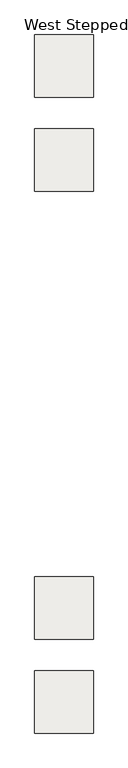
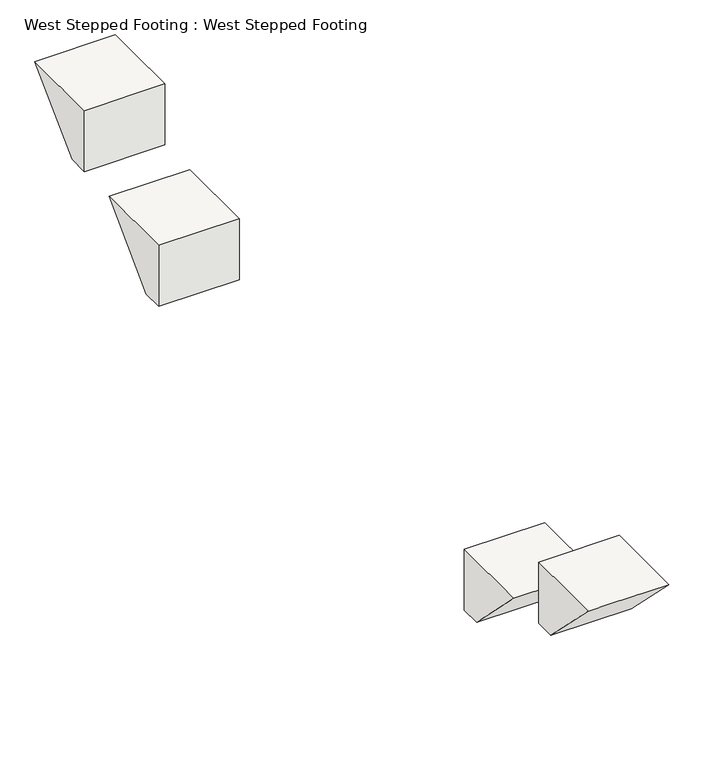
"""IFC4 building model written with IfcOpenShell, lengths in millimetres: slab geometry, West Stepped Footing : West Stepped Footing."""

import ifcopenshell
import ifcopenshell.guid

model = None  # the IFC model being written
_history = None  # IfcOwnerHistory: only IFC2X3 demands one
_inside = {}  # id of a spatial element -> (the spatial element, [elements in it])
_under = {}  # id of a project, library or spatial element -> (it, [spatial elements below it])
_declared = {}  # id of a project -> (the project, [libraries it declares])
_typed = {}  # id of a type object -> (the type object, [elements of that type])
_made_of = {}  # id of a material, layer set ... -> (it, [elements and type objects made of it])


def new_model(schema):
    """Start an empty IFC model of exactly this schema.

    Asked for "IFC4X3", IfcOpenShell would pick the latest addendum, in which some entities
    have other attributes; the version numbers below select the first issue.
    IFC2X3 requires an IfcOwnerHistory on every rooted entity: one is made here for all.
    """
    global model, _history
    if schema == "IFC4X3":
        model = ifcopenshell.file(schema_version=(4, 3, 0, 0))
    else:
        model = ifcopenshell.file(schema=schema)
    _inside.clear()
    _under.clear()
    _declared.clear()
    _typed.clear()
    _made_of.clear()
    _history = None
    if model.schema == "IFC2X3":
        org = make("IfcOrganization", Name="unknown")
        user = make(
            "IfcPersonAndOrganization",
            ThePerson=make("IfcPerson", FamilyName="unknown"),
            TheOrganization=org,
        )
        app = make(
            "IfcApplication",
            ApplicationDeveloper=org,
            Version="unknown",
            ApplicationFullName="unknown",
            ApplicationIdentifier="unknown",
        )
        _history = make(
            "IfcOwnerHistory",
            OwningUser=user,
            OwningApplication=app,
            ChangeAction="ADDED",
            CreationDate=0,
        )
    return model


def make(cls, **values):
    """One entity of the class cls with the attributes given. An attribute that is None is left unset."""
    return model.create_entity(
        cls, **{name: value for name, value in values.items() if value is not None}
    )


def rooted(cls, **values):
    """An entity with a GlobalId (a new one), such as an element, a storey or a relation."""
    return make(cls, GlobalId=ifcopenshell.guid.new(), OwnerHistory=_history, **values)


def si_unit(unit_type, name, prefix=None):
    """IfcSIUnit, for example si_unit("LENGTHUNIT", "METRE", prefix="MILLI")."""
    return make("IfcSIUnit", UnitType=unit_type, Prefix=prefix, Name=name)


def assignment(units):
    """IfcUnitAssignment: the units of a project."""
    return None if units is None else make("IfcUnitAssignment", Units=units)


def point(xyz):
    """IfcCartesianPoint."""
    return None if xyz is None else make("IfcCartesianPoint", Coordinates=xyz)


def direction(xyz):
    """IfcDirection."""
    return None if xyz is None else make("IfcDirection", DirectionRatios=xyz)


def frame(location, z_axis=None, x_axis=None):
    """IfcAxis2Placement3D, a coordinate frame: its origin and axes. An axis left out is left unset."""
    return make(
        "IfcAxis2Placement3D",
        Location=point(location),
        Axis=direction(z_axis),
        RefDirection=direction(x_axis),
    )


def origin():
    """The frame at (0, 0, 0) with its axes left unset."""
    return frame((0.0, 0.0, 0.0))


def place(relative_to, where):
    """IfcLocalPlacement: puts the frame where relative to a parent placement (None: the world)."""
    return make(
        "IfcLocalPlacement", PlacementRelTo=relative_to, RelativePlacement=where
    )


def context(
    kind, dimensions, precision=None, world=None, true_north=None, identifier=None
):
    """IfcGeometricRepresentationContext, for example the 3D "Model" context."""
    return make(
        "IfcGeometricRepresentationContext",
        ContextIdentifier=identifier,
        ContextType=kind,
        CoordinateSpaceDimension=dimensions,
        Precision=precision,
        WorldCoordinateSystem=world,
        TrueNorth=true_north,
    )


def project(units=None, contexts=None):
    """IfcProject with its units and contexts."""
    return rooted(
        "IfcProject",
        Name="project",
        RepresentationContexts=contexts,
        UnitsInContext=assignment(units),
    )


def spatial(cls, under=None, at=None, **own):
    """A site, building, storey or space (cls), placed at a placement, below another one or the project."""
    s = rooted(cls, ObjectPlacement=at, **own)
    if under is not None:
        _under.setdefault(under.id(), (under, []))[1].append(s)
    return s


def faces_of(points, faces, orient=None, outer=None):
    """IfcFace entities. A face is a list of loops; a loop is a list of indices into points, from 0.

    orient and outer hold one flag for each loop. By default every Orientation is true, the
    first loop of a face is its IfcFaceOuterBound and the others are IfcFaceBound.
    """
    made = []
    for i, loops in enumerate(faces):
        bounds = []
        for j, loop in enumerate(loops):
            is_outer = j == 0 if outer is None else outer[i][j]
            bounds.append(
                make(
                    "IfcFaceOuterBound" if is_outer else "IfcFaceBound",
                    Bound=make("IfcPolyLoop", Polygon=[points[k] for k in loop]),
                    Orientation=True if orient is None else orient[i][j],
                )
            )
        made.append(make("IfcFace", Bounds=bounds))
    return made


def faceted_brep(points, faces, orient=None, outer=None, voids=None):
    """IfcFacetedBrep: a solid bounded by flat faces; with voids (closed shells), ...WithVoids."""
    shared = [point(p) for p in points]
    hull = make("IfcClosedShell", CfsFaces=faces_of(shared, faces, orient, outer))
    if voids is None:
        return make("IfcFacetedBrep", Outer=hull)
    return make(
        "IfcFacetedBrepWithVoids",
        Outer=hull,
        Voids=[
            make(cls, CfsFaces=faces_of(shared, fs, o, b)) for cls, fs, o, b in voids
        ],
    )


def shape(context_of_items, identifier, shape_type, items):
    """IfcShapeRepresentation: the items that make up one representation, for example the "Body"."""
    return make(
        "IfcShapeRepresentation",
        ContextOfItems=context_of_items,
        RepresentationIdentifier=identifier,
        RepresentationType=shape_type,
        Items=items,
    )


def source(mapping_origin, context_of_items, identifier, shape_type, items):
    """IfcRepresentationMap: a shape defined once, which mapped items show again and again."""
    return make(
        "IfcRepresentationMap",
        MappingOrigin=mapping_origin,
        MappedRepresentation=shape(context_of_items, identifier, shape_type, items),
    )


def transform(
    local_origin,
    x_axis=None,
    y_axis=None,
    z_axis=None,
    scale=None,
    scale2=None,
    scale3=None,
    uniform=True,
):
    """IfcCartesianTransformationOperator3D, or its non-uniform kind. x_axis, y_axis, z_axis: its Axis1, 2, 3."""
    if uniform:
        return make(
            "IfcCartesianTransformationOperator3D",
            Axis1=direction(x_axis),
            Axis2=direction(y_axis),
            LocalOrigin=point(local_origin),
            Scale=scale,
            Axis3=direction(z_axis),
        )
    return make(
        "IfcCartesianTransformationOperator3DnonUniform",
        Axis1=direction(x_axis),
        Axis2=direction(y_axis),
        LocalOrigin=point(local_origin),
        Scale=scale,
        Axis3=direction(z_axis),
        Scale2=scale2,
        Scale3=scale3,
    )


def mapped(mapping_source, mapping_target):
    """IfcMappedItem: shows the shape of a source again, moved by a transform."""
    return make(
        "IfcMappedItem", MappingSource=mapping_source, MappingTarget=mapping_target
    )


def made_of(thing, what):
    """Note that an element or type object is made of a material, layer set ...; save() writes the relation."""
    if what is not None:
        _made_of.setdefault(what.id(), (what, []))[1].append(thing)
    return thing


def element(
    cls,
    number,
    at=None,
    inside=None,
    cuts=None,
    type_object=None,
    material=None,
    context=None,
    identifier="Body",
    shape_type=None,
    held_by="IfcProductDefinitionShape",
    body=None,
    shapes=None,
    **own,
):
    """One element of the class cls, such as IfcWall. Its Tag is "e" and its number.

    at: its placement. inside: the storey or other place that contains it. cuts: it is an
    opening in that element (IfcRelVoidsElement). A single representation is given by context,
    identifier, shape_type and body (its items); several are given by shapes. held_by: the class
    of the entity that holds the representations. save() writes the other relations.
    """
    e = rooted(cls, Tag="e%d" % number, ObjectPlacement=at, **own)
    if body is not None:
        shapes = [shape(context, identifier, shape_type, body)]
    if shapes is not None:
        e.Representation = make(held_by, Representations=shapes)
    if inside is not None:
        _inside.setdefault(inside.id(), (inside, []))[1].append(e)
    if cuts is not None:
        rooted(
            "IfcRelVoidsElement", RelatingBuildingElement=cuts, RelatedOpeningElement=e
        )
    if type_object is not None:
        _typed.setdefault(type_object.id(), (type_object, []))[1].append(e)
    return made_of(e, material)


def aggregate(whole, parts):
    """IfcRelAggregates: a whole, such as a stair, and the parts it consists of."""
    return rooted("IfcRelAggregates", RelatingObject=whole, RelatedObjects=parts)


def save(model, path):
    """Write the relations noted so far, then the file.

    IfcRelAggregates (storeys below a building ...), IfcRelContainedInSpatialStructure (elements
    in a storey), IfcRelDefinesByType, IfcRelAssociatesMaterial and IfcRelDeclares: one each for
    every whole, place, type object, material and project.
    """
    for whole, parts in _under.values():
        aggregate(whole, parts)
    for where, things in _inside.values():
        rooted(
            "IfcRelContainedInSpatialStructure",
            RelatedElements=things,
            RelatingStructure=where,
        )
    for kind, things in _typed.values():
        rooted("IfcRelDefinesByType", RelatedObjects=things, RelatingType=kind)
    for what, things in _made_of.values():
        rooted("IfcRelAssociatesMaterial", RelatedObjects=things, RelatingMaterial=what)
    for by, libraries in _declared.values():
        rooted("IfcRelDeclares", RelatingContext=by, RelatedDefinitions=libraries)
    model.write(path)


def west_stepped_footing_west_stepped_footing_b48c4903(model_context):
    return source(origin(), model_context, "Body", "Brep", [
        faceted_brep([(-381.0, 32820.15, -5487.0), (-381.0, 32620.15, -5487.0), (-381.0, 32620.15, -5182.0), (-381.0, 32620.15, -4877.0), (-381.0, 33430.15, -4877.0), (381.0, 32820.15, -5487.0), (381.0, 32620.15, -5487.0), (381.0, 32620.15, -5182.0), (381.0, 32620.15, -4877.0), (381.0, 33150.075, -4877.0), (381.0, 33430.15, -4877.0)], [[[0, 1, 2, 3, 4]], [[1, 0, 5, 6]], [[1, 6, 7, 8, 3, 2]], [[4, 3, 8, 9, 10]], [[0, 4, 10, 5]], [[5, 10, 9, 8, 7, 6]]]),
        faceted_brep([(381.0, 24969.9586136, -5487.0), (381.0, 25169.9586136, -5487.0), (381.0, 25169.9586136, -5182.0), (381.0, 25169.9586136, -4877.0), (381.0, 25030.2449713, -4877.0), (381.0, 24659.6095453, -4877.0), (381.0, 24359.9586136, -4877.0), (-381.0, 24359.9586136, -4877.0), (-381.0, 24969.9586136, -5487.0), (-170.9872888, 24359.9586136, -4877.0), (-381.0, 25169.9586136, -4877.0), (-381.0, 24695.7955654, -4877.0), (170.3737593, 25169.9586136, -4877.0), (-66.4758159, 25169.9586136, -4877.0), (-381.0, 25169.9586136, -5487.0), (-381.0, 25169.9586136, -5182.0)], [[[0, 1, 2, 3, 4, 5, 6]], [[7, 8, 0, 6, 9]], [[10, 11, 7, 9, 6, 5, 4, 3, 12, 13]], [[10, 13, 12, 3, 2, 1, 14, 15]], [[8, 14, 1, 0]], [[8, 7, 11, 10, 15, 14]]]),
        faceted_brep([(-381.0, 31401.15, -6097.0), (-381.0, 31601.15, -6097.0), (381.0, 31601.15, -6097.0), (381.0, 31401.15, -6097.0), (381.0, 31401.15, -5792.0), (381.0, 31401.15, -5487.0), (-381.0, 31401.15, -5487.0), (-381.0, 31401.15, -5792.0), (-381.0, 32211.15, -5487.0), (381.0, 32211.15, -5487.0)], [[[0, 1, 2, 3]], [[0, 3, 4, 5, 6, 7]], [[8, 6, 5, 9]], [[1, 8, 9, 2]], [[1, 0, 7, 6, 8]], [[2, 9, 5, 4, 3]]]),
        faceted_brep([(-381.0, 25578.9586136, -5487.0), (-381.0, 26188.9586136, -6097.0), (381.0, 26188.9586136, -6097.0), (381.0, 25578.9586136, -5487.0), (-381.0, 26388.9586136, -5487.0), (381.0, 26388.9586136, -5487.0), (381.0, 26388.9586136, -5792.0), (381.0, 26388.9586136, -6097.0), (-381.0, 26388.9586136, -6097.0), (-381.0, 26388.9586136, -5792.0)], [[[0, 1, 2, 3]], [[4, 0, 3, 5]], [[4, 5, 6, 7, 8, 9]], [[1, 8, 7, 2]], [[1, 0, 4, 9, 8]], [[2, 7, 6, 5, 3]]]),
    ])


if __name__ == "__main__":
    model = new_model("IFC4")
    model_context = context("Model", 3, world=origin())
    ifc_project = project(units=[si_unit("LENGTHUNIT", "METRE", prefix="MILLI")], contexts=[model_context])
    site = spatial("IfcSite", under=ifc_project)
    building = spatial("IfcBuilding", under=site)
    placement = place(None, origin())
    west_stepped_footing_west_stepped_footing_shape = west_stepped_footing_west_stepped_footing_b48c4903(model_context)
    element("IfcSlab", 1, ObjectType="West Stepped Footing : West Stepped Footing", at=placement, inside=building, context=model_context, shape_type="MappedRepresentation", body=[
        mapped(west_stepped_footing_west_stepped_footing_shape, transform((0.0, 0.0, 0.0), x_axis=(1.0, 0.0, 0.0), y_axis=(0.0, 1.0, 0.0), z_axis=(0.0, 0.0, 1.0))),
    ])
    save(model, "model.ifc")
